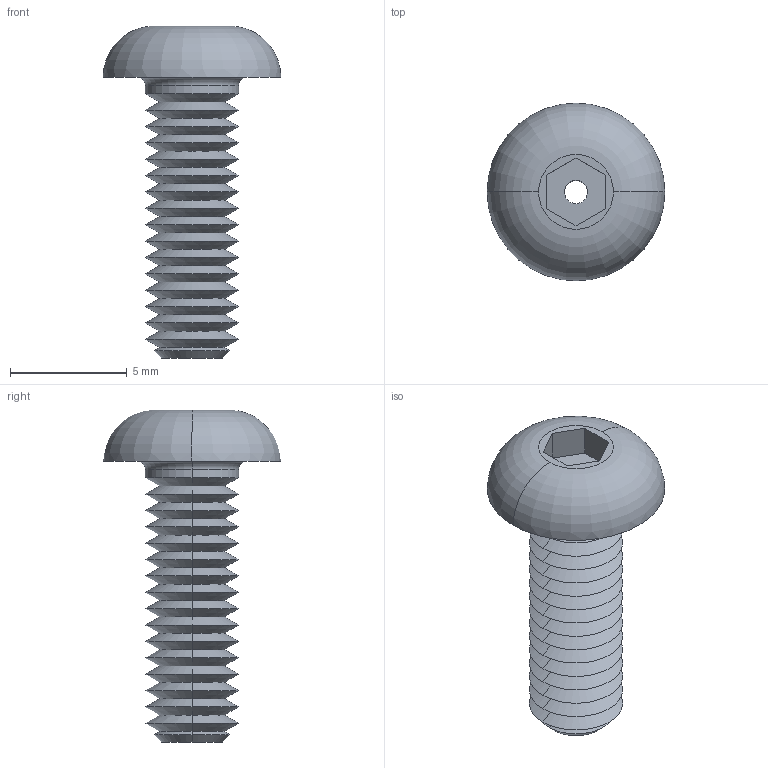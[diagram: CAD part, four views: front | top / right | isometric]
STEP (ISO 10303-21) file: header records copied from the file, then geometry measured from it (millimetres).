
FILE_DESCRIPTION (( 'STEP AP203' ), '1' );
FILE_NAME ('P0094.040-012-A2.step', '2019-07-12T16:52:30', ( '' ), ( '' ), 'SwSTEP 2.0', 'SolidWorks 2017', '' );
FILE_SCHEMA (( 'CONFIG_CONTROL_DESIGN' ));
Length unit declared in the file: millimetre
Products named in the file (1): P0094.040-012-A2
Bounding box: 7.6 x 7.6 x 14.2 mm (x, y, z)
Volume: 172.5 mm3; surface area: 406.5 mm2
Topology: 1 solids, 1 shells, 84 faces, 172 edges, 92 vertices
Faces by surface type: cone 66, plane 10, cylinder 4, torus 4
Entity records: 2237 total; most frequent: DIRECTION 426, CARTESIAN_POINT 349, ORIENTED_EDGE 344, EDGE_CURVE 172, AXIS2_PLACEMENT_3D 169, VERTEX_POINT 92, LINE 88, VECTOR 88
